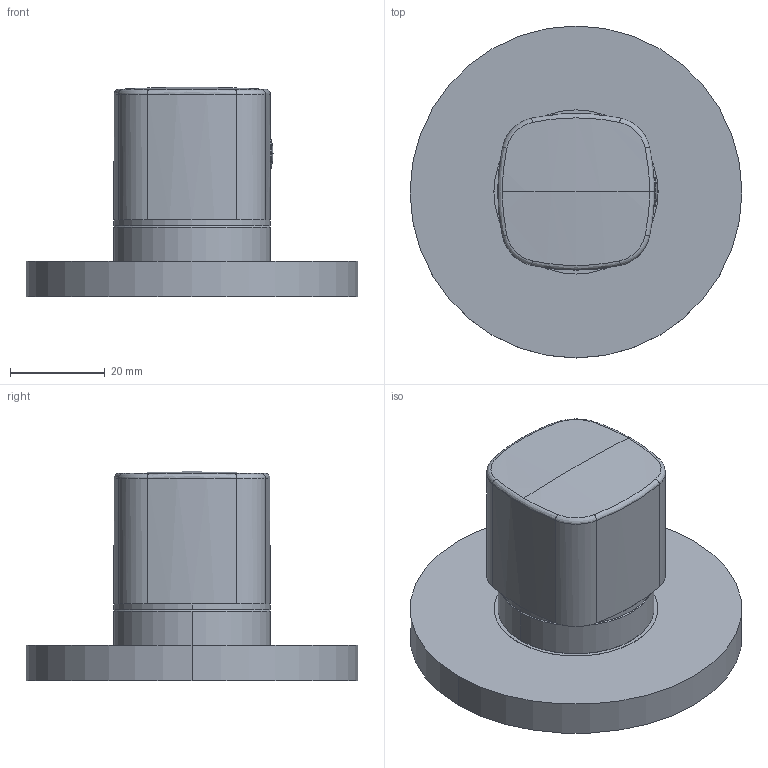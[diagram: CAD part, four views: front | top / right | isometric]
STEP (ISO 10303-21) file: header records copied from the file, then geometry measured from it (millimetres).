
FILE_DESCRIPTION((''),'2;1');
FILE_NAME('24000M590B000000_SW0001','2025-11-14T15:57:32',('Luca'),(''),'CREO PARAMETRIC BY PTC INC, 2025010','CREO PARAMETRIC BY PTC INC, 2025010','');
FILE_SCHEMA(('AUTOMOTIVE_DESIGN { 1 0 10303 214 1 1 1 1 }'));
Length unit declared in the file: millimetre
Products named in the file (1): 24000M590B000000_SW0001
Bounding box: 70 x 70 x 44.2 mm (x, y, z)
Volume: 61217.4 mm3; surface area: 15787.7 mm2
Topology: 1 solids, 1 shells, 76 faces, 178 edges, 109 vertices
Faces by surface type: cylinder 36, plane 17, bspline 9, torus 8, sphere 4, cone 2
Entity records: 3663 total; most frequent: CARTESIAN_POINT 1329, DIRECTION 360, ORIENTED_EDGE 340, EDGE_CURVE 170, AXIS2_PLACEMENT_3D 153, VERTEX_POINT 107, EDGE_LOOP 93, CIRCLE 80
